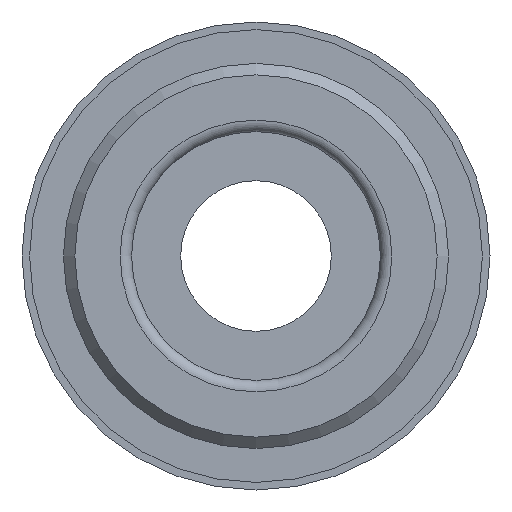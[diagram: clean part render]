
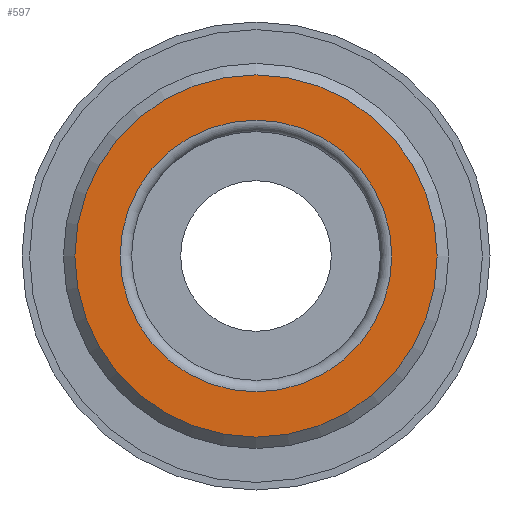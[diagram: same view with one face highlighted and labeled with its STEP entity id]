
A CAD part, left-side view. The second image highlights one B-rep face of the part: STEP entity #597.
In plain terms, the highlighted planar face has unit normal (-1, 0, 0).
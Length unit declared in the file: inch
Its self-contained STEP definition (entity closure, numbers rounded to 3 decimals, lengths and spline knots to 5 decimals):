
#22=PLANE('',#665);
#102=CIRCLE('',#666,0.356);
#103=CIRCLE('',#667,0.267);
#178=ORIENTED_EDGE('',*,*,#332,.F.);
#179=ORIENTED_EDGE('',*,*,#333,.T.);
#332=EDGE_CURVE('',#405,#405,#102,.T.);
#333=EDGE_CURVE('',#406,#406,#103,.T.);
#405=VERTEX_POINT('',#1070);
#406=VERTEX_POINT('',#1072);
#465=EDGE_LOOP('',(#178));
#466=EDGE_LOOP('',(#179));
#524=FACE_BOUND('',#465,.T.);
#525=FACE_BOUND('',#466,.T.);
#597=ADVANCED_FACE('',(#524,#525),#22,.F.);
#665=AXIS2_PLACEMENT_3D('',#1068,#776,#777);
#666=AXIS2_PLACEMENT_3D('',#1069,#778,#779);
#667=AXIS2_PLACEMENT_3D('',#1071,#780,#781);
#776=DIRECTION('',(1.,0.,0.));
#777=DIRECTION('',(0.,0.,-1.));
#778=DIRECTION('',(1.,0.,0.));
#779=DIRECTION('',(0.,0.,-1.));
#780=DIRECTION('',(1.,0.,0.));
#781=DIRECTION('',(0.,0.,-1.));
#1068=CARTESIAN_POINT('',(-0.0225,0.,0.));
#1069=CARTESIAN_POINT('',(-0.0225,0.,0.));
#1070=CARTESIAN_POINT('',(-0.0225,0.,-0.356));
#1071=CARTESIAN_POINT('',(-0.0225,0.,0.));
#1072=CARTESIAN_POINT('',(-0.0225,0.,-0.267));
